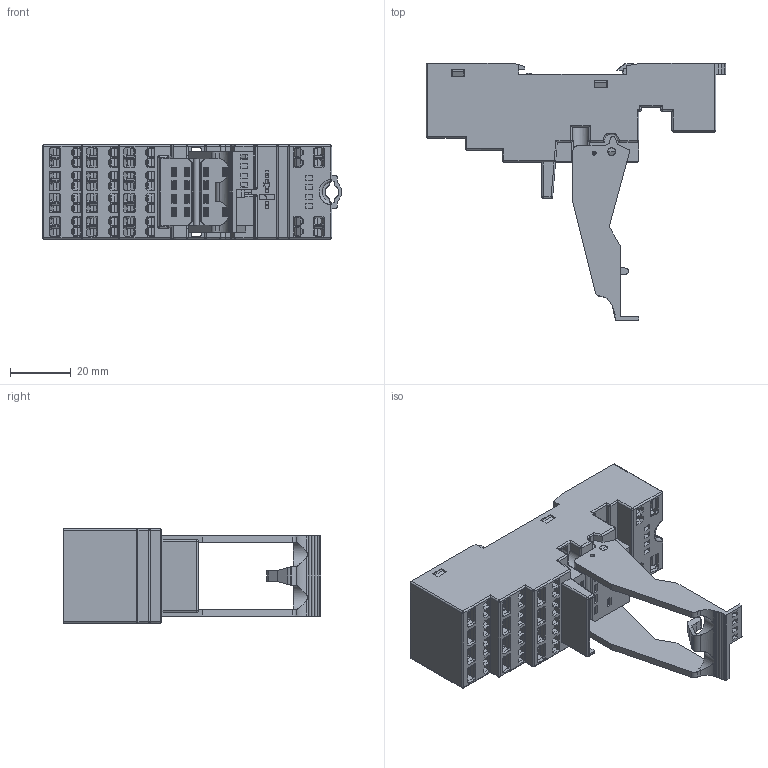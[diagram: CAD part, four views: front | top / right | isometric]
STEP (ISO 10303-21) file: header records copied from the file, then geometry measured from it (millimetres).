
FILE_DESCRIPTION(('STEP AP214'),'2;1');
FILE_NAME('94_54_catalogo_zoccolo+ponticello_094913---OK.stp','2011-07-25T16:43:35',(''),(''),'2007.1.106','THINKDESIGN','');
FILE_SCHEMA(('AUTOMOTIVE_DESIGN'));
Products named in the file (1): None
Bounding box: 98.65 x 84.76 x 31 mm (x, y, z)
Surface area: 28669.3 mm2 (no closed solid volume)
Topology: 0 solids, 0 shells, 2087 faces, 12446 edges, 12415 vertices
Faces by surface type: plane 1177, cylinder 717, bspline 193
Full cylindrical faces by diameter (mm): 1.3 x2, 2.5 x2, 2.6 x2
Entity records: 124214 total; most frequent: CARTESIAN_POINT 40414, DIRECTION 14443, COMPOSITE_CURVE_SEGMENT 12416, TRIMMED_CURVE 9551, VECTOR 8447, LINE 8447, AXIS2_PLACEMENT_3D 2998, OUTER_BOUNDARY_CURVE 2087
